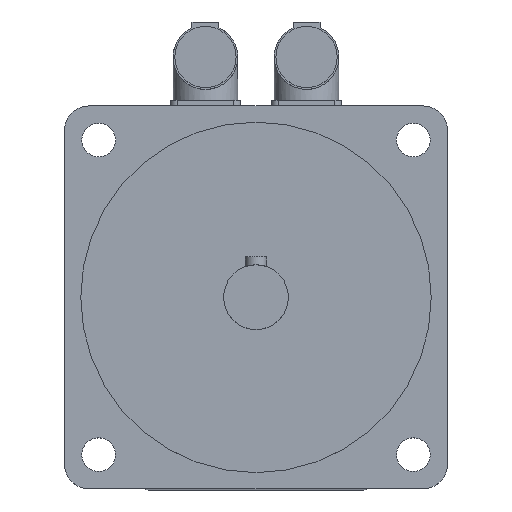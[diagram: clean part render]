
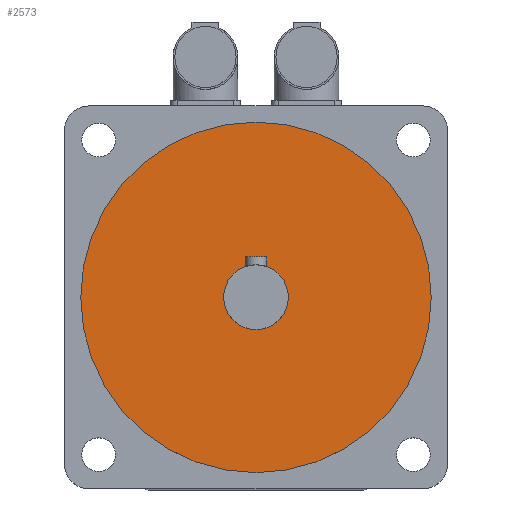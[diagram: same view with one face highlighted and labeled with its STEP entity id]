
A CAD part, top view. The second image highlights one B-rep face of the part: STEP entity #2573.
In plain terms, the highlighted planar face has unit normal (0, 0, 1).
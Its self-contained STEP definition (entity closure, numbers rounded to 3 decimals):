
#40=FACE_BOUND('',#443,.T.);
#68=CIRCLE('',#2730,12.);
#69=CIRCLE('',#2733,65.);
#285=FACE_OUTER_BOUND('',#442,.T.);
#442=EDGE_LOOP('',(#1750));
#443=EDGE_LOOP('',(#1751));
#1090=VERTEX_POINT('',#3908);
#1091=VERTEX_POINT('',#3912);
#1348=EDGE_CURVE('',#1090,#1090,#68,.T.);
#1349=EDGE_CURVE('',#1091,#1091,#69,.T.);
#1750=ORIENTED_EDGE('',*,*,#1349,.T.);
#1751=ORIENTED_EDGE('',*,*,#1348,.T.);
#2497=PLANE('',#2735);
#2573=ADVANCED_FACE('',(#285,#40),#2497,.F.);
#2730=AXIS2_PLACEMENT_3D('',#3909,#3045,#3046);
#2733=AXIS2_PLACEMENT_3D('',#3913,#3051,#3052);
#2735=AXIS2_PLACEMENT_3D('',#3916,#3055,#3056);
#3045=DIRECTION('center_axis',(0.,0.,
-1.));
#3046=DIRECTION('ref_axis',(-1.,0.,0.));
#3051=DIRECTION('center_axis',(0.,0.,
1.));
#3052=DIRECTION('ref_axis',(-1.,0.,0.));
#3055=DIRECTION('center_axis',(0.,0.,
-1.));
#3056=DIRECTION('ref_axis',(-1.,0.,0.));
#3908=CARTESIAN_POINT('',(12.,0.,231.5));
#3909=CARTESIAN_POINT('Origin',(0.,0.,
231.5));
#3912=CARTESIAN_POINT('',(65.,0.,231.5));
#3913=CARTESIAN_POINT('Origin',(0.,0.,
231.5));
#3916=CARTESIAN_POINT('Origin',(0.,0.,
231.5));
